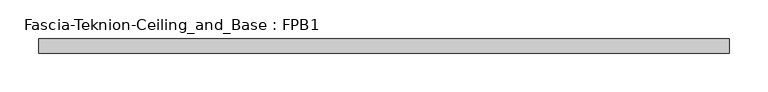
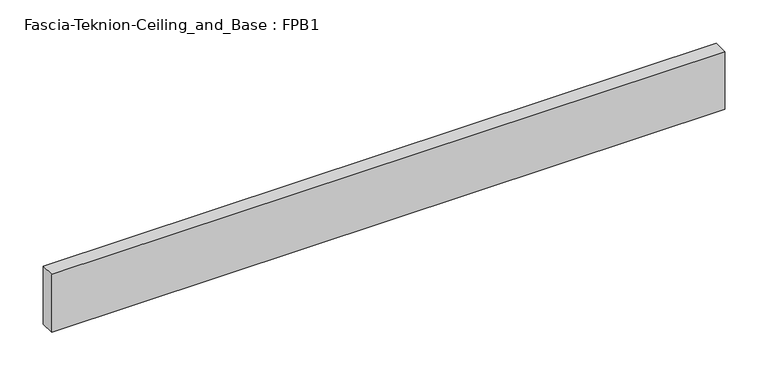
"""IFC4 building model written with IfcOpenShell, lengths in millimetres: proxy geometry, Fascia-Teknion-Ceiling_and_Base : FPB1."""

from ifc_helpers import new_model, si_unit, origin, origin_with_axes, place, context, project, spatial, polyline, outline, extrude, source, transform, mapped, element, save


def fascia_teknion_ceiling_and_base_fpb1_16c273a4(model_context):
    return source(origin(), model_context, "Body", "SweptSolid", [
        extrude(outline(polyline([(447.6198344, 0.0), (-447.6198344, 0.0), (-447.6198344, 19.05), (447.6198344, 19.05), (447.6198344, 0.0)])), origin_with_axes(), (0.0, 0.0, 1.0), 81.28),
    ])


if __name__ == "__main__":
    model = new_model("IFC4")
    model_context = context("Model", 3, world=origin())
    ifc_project = project(units=[si_unit("LENGTHUNIT", "METRE", prefix="MILLI")], contexts=[model_context])
    site = spatial("IfcSite", under=ifc_project)
    building = spatial("IfcBuilding", under=site)
    placement = place(None, origin())
    fascia_teknion_ceiling_and_base_fpb1_shape = fascia_teknion_ceiling_and_base_fpb1_16c273a4(model_context)
    element("IfcBuildingElementProxy", 1, Name="Fascia-Teknion-Ceiling_and_Base : FPB1", ObjectType="Fascia-Teknion-Ceiling_and_Base : FPB1", at=placement, inside=building, context=model_context, shape_type="MappedRepresentation", body=[
        mapped(fascia_teknion_ceiling_and_base_fpb1_shape, transform((0.0, 0.0, 0.0), x_axis=(1.0, 0.0, 0.0), y_axis=(0.0, 1.0, 0.0), z_axis=(0.0, 0.0, 1.0))),
    ])
    save(model, "model.ifc")
